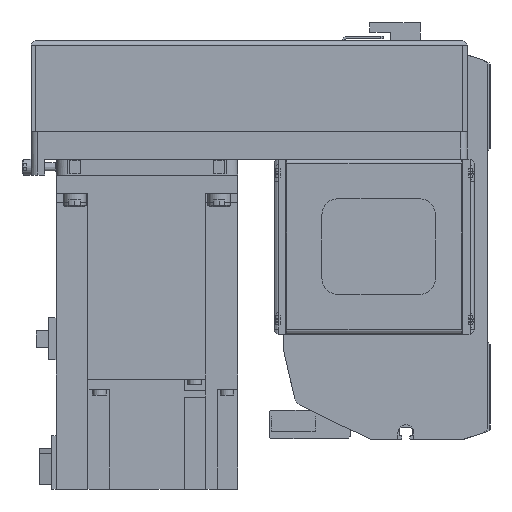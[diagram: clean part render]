
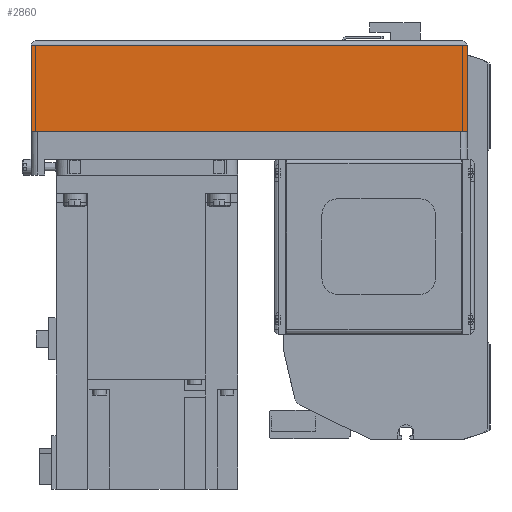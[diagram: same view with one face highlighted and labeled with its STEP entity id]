
A CAD part, left-side view. The second image highlights one B-rep face of the part: STEP entity #2860.
In plain terms, the highlighted planar face has unit normal (-1, 0, 0) as drawn and (0, 1, 0) by its records, which use the part's own axes.
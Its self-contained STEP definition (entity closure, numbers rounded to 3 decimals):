
#2860 = ADVANCED_FACE( '', ( #6205 ), #6206, .T. );
#6205 = FACE_OUTER_BOUND( '', #9885, .T. );
#6206 = PLANE( '', #9886 );
#9885 = EDGE_LOOP( '', ( #17930, #17931, #17932, #17933 ) );
#9886 = AXIS2_PLACEMENT_3D( '', #17934, #17935, #17936 );
#17930 = ORIENTED_EDGE( '', *, *, #23723, .F. );
#17931 = ORIENTED_EDGE( '', *, *, #22946, .F. );
#17932 = ORIENTED_EDGE( '', *, *, #22293, .T. );
#17933 = ORIENTED_EDGE( '', *, *, #23155, .T. );
#17934 = CARTESIAN_POINT( '', ( -192., 40., -50. ) );
#17935 = DIRECTION( '', ( 0., 1., 0. ) );
#17936 = DIRECTION( '', ( 0., 0., 1. ) );
#22293 = EDGE_CURVE( '', #27065, #27233, #27235, .T. );
#22946 = EDGE_CURVE( '', #27065, #24621, #28203, .T. );
#23155 = EDGE_CURVE( '', #27233, #27382, #28491, .T. );
#23723 = EDGE_CURVE( '', #24621, #27382, #29254, .T. );
#24621 = VERTEX_POINT( '', #30327 );
#27065 = VERTEX_POINT( '', #34001 );
#27233 = VERTEX_POINT( '', #34269 );
#27235 = LINE( '', #34272, #34273 );
#27382 = VERTEX_POINT( '', #34491 );
#28203 = LINE( '', #36056, #36057 );
#28491 = LINE( '', #36450, #36451 );
#29254 = LINE( '', #37727, #37728 );
#30327 = CARTESIAN_POINT( '', ( 0., 40., -50. ) );
#34001 = CARTESIAN_POINT( '', ( -192., 40., -50. ) );
#34269 = CARTESIAN_POINT( '', ( -192., 40., -12.1 ) );
#34272 = CARTESIAN_POINT( '', ( -192., 40., -50. ) );
#34273 = VECTOR( '', #40946, 1000. );
#34491 = CARTESIAN_POINT( '', ( 0., 40., -12.1 ) );
#36056 = CARTESIAN_POINT( '', ( -192., 40., -50. ) );
#36057 = VECTOR( '', #41689, 1000. );
#36450 = CARTESIAN_POINT( '', ( -192., 40., -12.1 ) );
#36451 = VECTOR( '', #41903, 1000. );
#37727 = CARTESIAN_POINT( '', ( 0., 40., -50. ) );
#37728 = VECTOR( '', #42519, 1000. );
#40946 = DIRECTION( '', ( 0., 0., 1. ) );
#41689 = DIRECTION( '', ( 1., 0., 0. ) );
#41903 = DIRECTION( '', ( 1., 0., 0. ) );
#42519 = DIRECTION( '', ( 0., 0., 1. ) );
